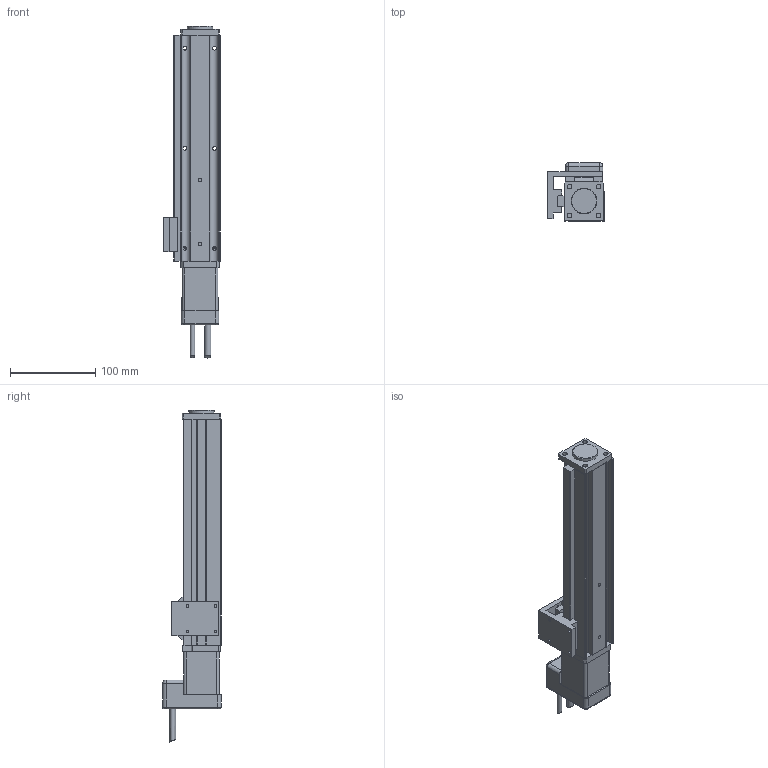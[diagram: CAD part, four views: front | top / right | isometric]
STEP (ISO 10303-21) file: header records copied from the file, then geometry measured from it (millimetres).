
FILE_DESCRIPTION(/* description */ ('Alibre Inc.'),/* implementation_level */ '2;1');
FILE_NAME(/* name */ 'export0',/* time_stamp */ '2011-08-02T11:24:57-04:00',/* author */ (''),/* organization */ (''),/* preprocessor_version */ 'ST-DEVELOPER v10',/* originating_system */ 'Alibre',/* authorisation */ '');
FILE_SCHEMA (('CONFIG_CONTROL_DESIGN'));
Length unit declared in the file: centimetre
Products named in the file (3): ID_1; ID_2
Bounding box: 66 x 68.8 x 389.76 mm (x, y, z)
Volume: 694877.7 mm3; surface area: 106774.7 mm2
Topology: 2 solids, 2 shells, 226 faces, 595 edges, 379 vertices
Faces by surface type: plane 132, cylinder 83, cone 5, torus 4, sphere 2
Full cylindrical faces by diameter (mm): 2.459 x3, 2.5 x1, 3 x2, 3.242 x12, 4 x2, 4.5 x6, 5 x1, 5.5 x5, 7.5 x1, 8 x6, 12 x1, 22 x1, 30 x1
Entity records: 6710 total; most frequent: CARTESIAN_POINT 1265, ORIENTED_EDGE 1054, DIRECTION 949, EDGE_CURVE 527, AXIS2_PLACEMENT_3D 377, VERTEX_POINT 364, FACE_BOUND 329, EDGE_LOOP 325
